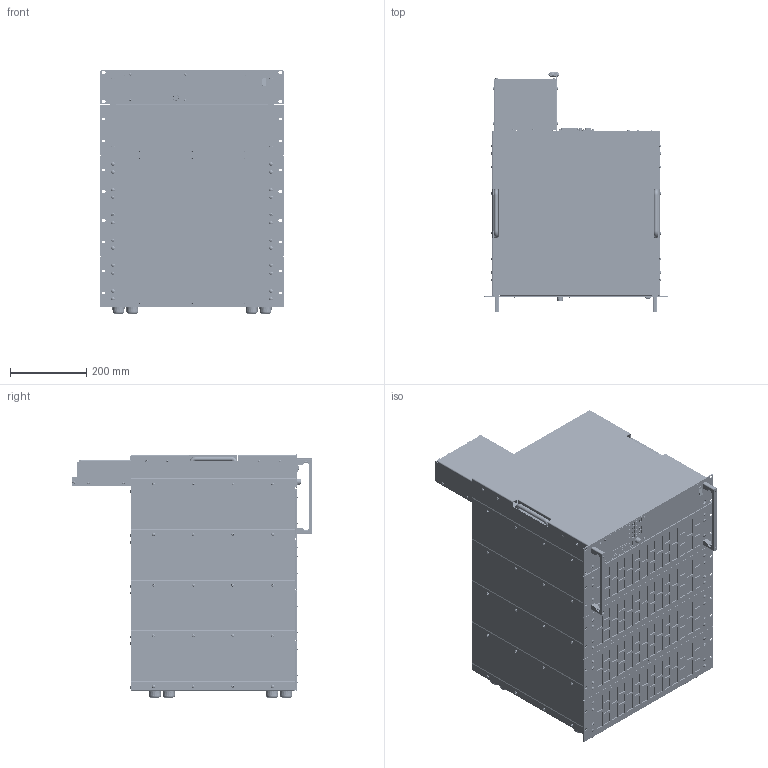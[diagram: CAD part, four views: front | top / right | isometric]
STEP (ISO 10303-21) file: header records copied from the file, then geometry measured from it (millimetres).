
FILE_DESCRIPTION(('STEP AP214'),'1');
FILE_NAME('PLI_M32_19Z_14HE_FKS40_12_SM12_BRB_3D_01.step','2019-02-14T10:03:48',(' '),(' '),'Spatial InterOp 3D',' ',' ');
FILE_SCHEMA(('AUTOMOTIVE_DESIGN { 1 0 10303 214 1 1 1 1 }'));
Length unit declared in the file: millimetre
Products named in the file (1): 1
Bounding box: 482.6 x 631.75 x 639.43 mm (x, y, z)
Volume: 39093542.1 mm3; surface area: 7000976.1 mm2
Topology: 337 solids, 1956 shells, 22677 faces, 63228 edges, 42921 vertices
Faces by surface type: plane 12006, cone 6312, cylinder 3709, sphere 346, torus 276, bspline 26, extrusion 2
Entity records: 932754 total; most frequent: CARTESIAN_POINT 135863, DIRECTION 133475, ORIENTED_EDGE 114552, EDGE_CURVE 62294, AXIS2_PLACEMENT_3D 46252, VERTEX_POINT 41788, VECTOR 40971, LINE 40969
